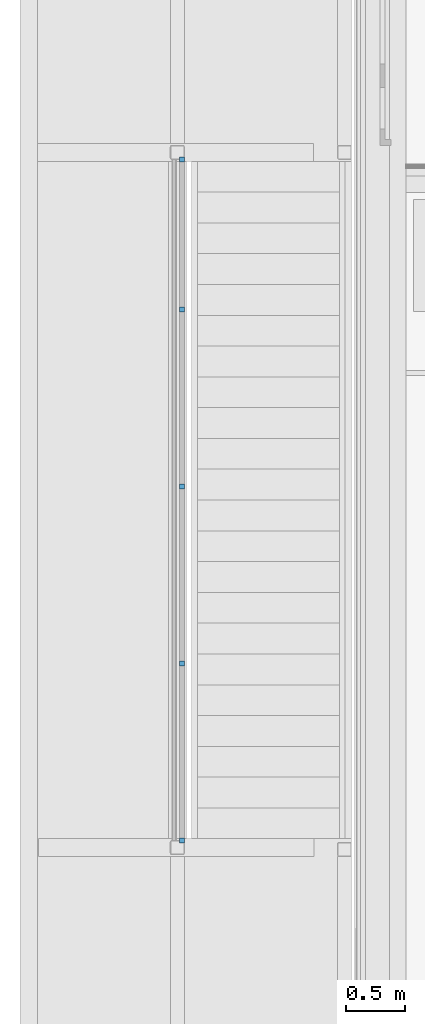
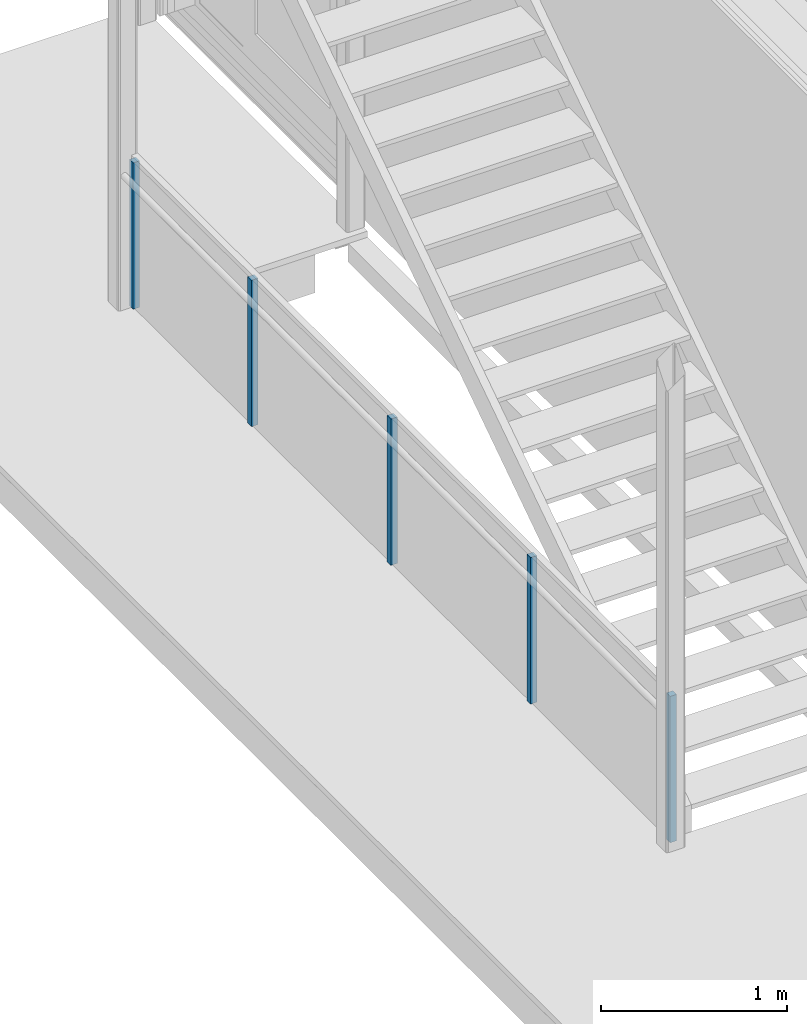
# One storey, part 93 of 153: 5 building element parts, 1 element without a shape of its own.
"""IFC2X3 building model written with IfcOpenShell, lengths in millimetres."""

from ifc_helpers import new_model, entity, si_unit, converted_unit, derived_unit, money_unit, direction, frame, origin_with_axes, place, context, subcontext, project, spatial, faceted_brep, material, type_object, element, aggregate, save


model = new_model("IFC2X3")

# Units and contexts
model_context = context("Model", 3, precision=0.01, world=origin_with_axes(), true_north=direction((0.0, 1.0)))
body_context = subcontext(model_context, "Body", "Model", "MODEL_VIEW")
ifc_project = project(units=[si_unit("LENGTHUNIT", "METRE", prefix="MILLI"), si_unit("AREAUNIT", "SQUARE_METRE"), si_unit("VOLUMEUNIT", "CUBIC_METRE"), converted_unit("PLANEANGLEUNIT", "DEGREE", entity("IfcPlaneAngleMeasure", 0.0174532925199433), si_unit("PLANEANGLEUNIT", "RADIAN"), dimensions=[0, 0, 0, 0, 0, 0, 0]), money_unit("EUR"), converted_unit("TIMEUNIT", "Year", entity("IfcTimeMeasure", 31557600.0), si_unit("TIMEUNIT", "SECOND"), dimensions=[0, 0, 1, 0, 0, 0, 0]), si_unit("MASSUNIT", "GRAM", prefix="KILO"), si_unit("THERMODYNAMICTEMPERATUREUNIT", "DEGREE_CELSIUS"), si_unit("LUMINOUSINTENSITYUNIT", "LUMEN"), si_unit("ENERGYUNIT", "JOULE", prefix="MEGA"), derived_unit("THERMALCONDUCTANCEUNIT", [(si_unit("POWERUNIT", "WATT"), 1), (si_unit("LENGTHUNIT", "METRE"), -1), (si_unit("THERMODYNAMICTEMPERATUREUNIT", "KELVIN"), -1)]), derived_unit("SPECIFICHEATCAPACITYUNIT", [(si_unit("ENERGYUNIT", "JOULE"), 1), (si_unit("MASSUNIT", "GRAM", prefix="KILO"), -1), (si_unit("THERMODYNAMICTEMPERATUREUNIT", "KELVIN"), -1)]), derived_unit("MASSDENSITYUNIT", [(si_unit("MASSUNIT", "GRAM", prefix="KILO"), 1), (si_unit("VOLUMEUNIT", "CUBIC_METRE"), -1)])], contexts=[model_context])

# Site, building, storey
site_placement = place(None, frame((0.0, 0.0, 8650.0), z_axis=(0.0, 0.0, 1.0), x_axis=(1.0, 0.0, 0.0)))
site = spatial("IfcSite", under=ifc_project, at=site_placement, Name="43301:001:0844", CompositionType="ELEMENT")
building_placement = place(site_placement, origin_with_axes())
building = spatial("IfcBuilding", under=site, at=building_placement, Name="Kuressaare Ametikooli tuulikute mehaanikute õppekorpus", CompositionType="ELEMENT")
storey_placement = place(building_placement, frame((0.0, 0.0, 4100.0), z_axis=(0.0, 0.0, 1.0), x_axis=(1.0, 0.0, 0.0)))
storey = spatial("IfcBuildingStorey", under=building, at=storey_placement, Name="2.korrus", CompositionType="ELEMENT", Elevation=4100.0)

# Railing, building element parts
railing_type = type_object("IfcRailingType", Name="Railing Type", PredefinedType="NOTDEFINED")
railing_placement = place(storey_placement, frame((86439.22664518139, 10898.83806945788, -19.99999999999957), z_axis=(0.0, 0.0, 1.0), x_axis=(-1.0, 0.0, 0.0)))
railing = element("IfcRailing", 1, at=railing_placement, inside=storey, type_object=railing_type, Name="Piire", PredefinedType="NOTDEFINED")
ifc_material_1 = material(Name="Teras - roostevaba")
building_element_part_1_placement = place(railing_placement, origin_with_axes())
building_element_part_1 = element("IfcBuildingElementPart", 2, at=building_element_part_1_placement, material=ifc_material_1, Name="Teras - roostevaba", context=body_context, shape_type="Brep", body=[
    faceted_brep([(39.99999999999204, -4.999656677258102, 0.0), (39.99999999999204, -4.999656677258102, 960.0), (0.0, -4.999656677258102, 960.0), (0.0, -4.999656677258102, 0.0), (39.99999999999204, 35.00034332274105, 0.0), (39.99999999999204, 35.00034332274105, 960.0), (0.0, 35.00034332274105, 960.0), (0.0, 35.00034332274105, 0.0)], [[[0, 1, 2, 3]], [[4, 5, 1, 0]], [[1, 5, 6, 2]], [[3, 2, 6, 7]], [[0, 3, 7, 4]], [[7, 6, 5, 4]]]),
])
building_element_part_2_placement = place(railing_placement, origin_with_axes())
building_element_part_2 = element("IfcBuildingElementPart", 3, at=building_element_part_2_placement, material=ifc_material_1, Name="Teras - roostevaba", context=body_context, shape_type="Brep", body=[
    faceted_brep([(39.99999999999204, -5774.999999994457, 0.0), (39.99999999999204, -5774.999999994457, 960.0), (0.0, -5774.999999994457, 960.0), (0.0, -5774.999999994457, 0.0), (39.99999999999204, -5734.999999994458, 0.0), (39.99999999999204, -5734.999999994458, 960.0), (0.0, -5734.999999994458, 960.0), (0.0, -5734.999999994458, 0.0)], [[[0, 1, 2, 3]], [[4, 5, 1, 0]], [[1, 5, 6, 2]], [[3, 2, 6, 7]], [[0, 3, 7, 4]], [[7, 6, 5, 4]]]),
])
ifc_material_2 = material(Name="Steel - Structural")
building_element_part_3_placement = place(railing_placement, origin_with_axes())
building_element_part_3 = element("IfcBuildingElementPart", 4, at=building_element_part_3_placement, material=ifc_material_2, Name="Steel - Structural", context=body_context, shape_type="Brep", body=[
    faceted_brep([(39.99999999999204, -1504.999656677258, 0.0), (39.99999999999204, -1504.999656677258, 960.0), (0.0, -1504.999656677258, 960.0), (0.0, -1504.999656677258, 0.0), (39.99999999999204, -1464.999656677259, 0.0), (39.99999999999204, -1464.999656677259, 960.0), (0.0, -1464.999656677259, 960.0), (0.0, -1464.999656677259, 0.0)], [[[0, 1, 2, 3]], [[4, 5, 1, 0]], [[1, 5, 6, 2]], [[3, 2, 6, 7]], [[0, 3, 7, 4]], [[7, 6, 5, 4]]]),
])
building_element_part_4_placement = place(railing_placement, origin_with_axes())
building_element_part_4 = element("IfcBuildingElementPart", 5, at=building_element_part_4_placement, material=ifc_material_2, Name="Steel - Structural", context=body_context, shape_type="Brep", body=[
    faceted_brep([(39.99999999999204, -3004.999656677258, 0.0), (39.99999999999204, -3004.999656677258, 960.0), (0.0, -3004.999656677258, 960.0), (0.0, -3004.999656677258, 0.0), (39.99999999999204, -2964.999656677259, 0.0), (39.99999999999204, -2964.999656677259, 960.0), (0.0, -2964.999656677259, 960.0), (0.0, -2964.999656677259, 0.0)], [[[0, 1, 2, 3]], [[4, 5, 1, 0]], [[1, 5, 6, 2]], [[3, 2, 6, 7]], [[0, 3, 7, 4]], [[7, 6, 5, 4]]]),
])
building_element_part_5_placement = place(railing_placement, origin_with_axes())
building_element_part_5 = element("IfcBuildingElementPart", 6, at=building_element_part_5_placement, material=ifc_material_2, Name="Steel - Structural", context=body_context, shape_type="Brep", body=[
    faceted_brep([(39.99999999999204, -4504.999656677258, 0.0), (39.99999999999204, -4504.999656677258, 960.0), (0.0, -4504.999656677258, 960.0), (0.0, -4504.999656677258, 0.0), (39.99999999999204, -4464.999656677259, 0.0), (39.99999999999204, -4464.999656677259, 960.0), (0.0, -4464.999656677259, 960.0), (0.0, -4464.999656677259, 0.0)], [[[0, 1, 2, 3]], [[4, 5, 1, 0]], [[1, 5, 6, 2]], [[3, 2, 6, 7]], [[0, 3, 7, 4]], [[7, 6, 5, 4]]]),
])
aggregate(railing, [building_element_part_1, building_element_part_2, building_element_part_3, building_element_part_4, building_element_part_5])

save(model, "model.ifc")
